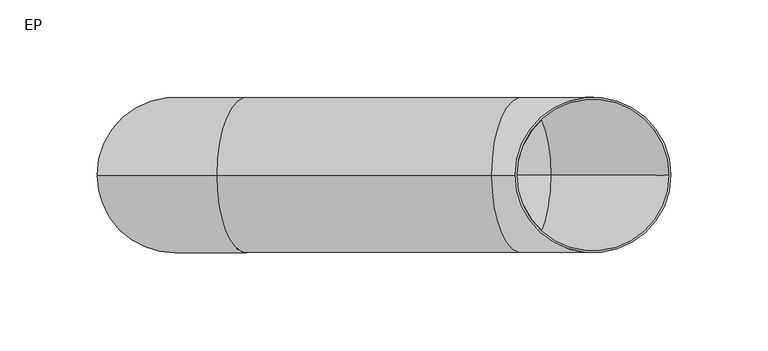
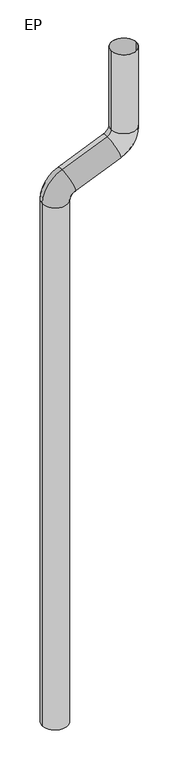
"""IFC4 building model written with IfcOpenShell, lengths in millimetres: flow terminal geometry, Descente Eau pluviale : EP."""

from ifc_helpers import new_model, si_unit, point, frame, origin, place, context, project, spatial, polyline, circle_curve, ellipse_curve, trimmed, source, transform, mapped, element, save
from ifc_brep_helpers import plane_surface, cylinder_surface, revolved_surface, advanced_brep


def ep_6def9494(model_context):
    return source(origin(), model_context, "Body", "AdvancedBrep", [
        advanced_brep(
        [(40.0, 300.0, 871000.0), (-40.0, 300.0, 871000.0), (39.0, 300.0, 871000.0), (-39.0, 300.0, 871000.0), (-40.0, 300.0, 872720.0714678), (40.0, 300.0, 872720.0714678), (-39.0, 300.0, 872720.0714678), (39.0, 300.0, 872720.0714678), (21.3861912, 300.0, 872812.3155666), (52.2772382, 300.0, 872738.5202876), (21.7723293, 300.0, 872811.3931256), (51.8911001, 300.0, 872739.4427285), (162.7227618, 300.0, 872871.4797124), (193.6138088, 300.0, 872797.6844334), (163.1088999, 300.0, 872870.5572715), (193.2276707, 300.0, 872798.6068744), (175.0, 300.0, 872889.9285322), (255.0, 300.0, 872889.9285322), (176.0, 300.0, 872889.9285322), (254.0, 300.0, 872889.9285322), (255.0, 300.0, 873150.0), (175.0, 300.0, 873150.0), (254.0, 300.0, 873150.0), (176.0, 300.0, 873150.0)],
        [
            (0, 1, circle_curve(frame((0.0, 300.0, 871000.0), z_axis=(0.0, 0.0, -1.0), x_axis=(-1.0, 0.0, 0.0)), 40.0)),
            (1, 0, circle_curve(frame((0.0, 300.0, 871000.0), z_axis=(0.0, 0.0, -1.0), x_axis=(-1.0, 0.0, 0.0)), 40.0)),
            (2, 3, circle_curve(frame((0.0, 300.0, 871000.0), z_axis=(0.0, 0.0, 1.0), x_axis=(-1.0, 0.0, 0.0)), 39.0)),
            (3, 2, circle_curve(frame((0.0, 300.0, 871000.0), z_axis=(0.0, 0.0, 1.0), x_axis=(-1.0, 0.0, 0.0)), 39.0)),
            (1, 4),
            (4, 5, circle_curve(frame((0.0, 300.0, 872720.0714678), z_axis=(0.0, 0.0, -1.0), x_axis=(-1.0, 0.0, 0.0)), 40.0)),
            (5, 0),
            (5, 4, circle_curve(frame((0.0, 300.0, 872720.0714678), z_axis=(0.0, 0.0, -1.0), x_axis=(-1.0, 0.0, 0.0)), 40.0)),
            (3, 6),
            (6, 7, circle_curve(frame((0.0, 300.0, 872720.0714678), z_axis=(0.0, 0.0, 1.0), x_axis=(-1.0, 0.0, 0.0)), 39.0)),
            (7, 2),
            (7, 6, circle_curve(frame((0.0, 300.0, 872720.0714678), z_axis=(0.0, 0.0, 1.0), x_axis=(-1.0, 0.0, 0.0)), 39.0)),
            (8, 9, circle_curve(frame((36.8317147, 300.0, 872775.4179271), z_axis=(-0.9224409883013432, 0.0, -0.3861380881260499), x_axis=(-0.3861380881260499, 0.0, 0.9224409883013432)), 40.0)),
            (9, 5, circle_curve(frame((60.0, 300.0, 872720.0714678), z_axis=(0.0, -1.0, 0.0), x_axis=(-1.0, 0.0, 0.0)), 20.0)),
            (4, 8, circle_curve(frame((60.0, 300.0, 872720.0714678), z_axis=(0.0, 1.0, 0.0), x_axis=(-1.0, 0.0, 0.0)), 100.0)),
            (9, 8, circle_curve(frame((36.8317147, 300.0, 872775.4179271), z_axis=(-0.9224409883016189, 0.0, -0.3861380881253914), x_axis=(-0.3861380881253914, 0.0, 0.9224409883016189)), 40.0)),
            (10, 11, circle_curve(frame((36.8317147, 300.0, 872775.4179271), z_axis=(0.9224409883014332, 0.0, 0.3861380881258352), x_axis=(-0.3861380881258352, 0.0, 0.9224409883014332)), 39.0)),
            (11, 7, circle_curve(frame((60.0, 300.0, 872720.0714678), z_axis=(0.0, -1.0, 0.0), x_axis=(-1.0, 0.0, 0.0)), 21.0)),
            (6, 10, circle_curve(frame((60.0, 300.0, 872720.0714678), z_axis=(0.0, 1.0, 0.0), x_axis=(-1.0, 0.0, 0.0)), 99.0)),
            (11, 10, circle_curve(frame((36.8317147, 300.0, 872775.4179271), z_axis=(0.9224409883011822, 0.0, 0.38613808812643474), x_axis=(-0.38613808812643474, 0.0, 0.9224409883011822)), 39.0)),
            (8, 12),
            (12, 13, circle_curve(frame((178.1682853, 300.0, 872834.5820729), z_axis=(-0.9224409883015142, 0.0, -0.38613808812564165), x_axis=(-0.38613808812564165, 0.0, 0.9224409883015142)), 40.0)),
            (13, 9),
            (13, 12, circle_curve(frame((178.1682853, 300.0, 872834.5820729), z_axis=(-0.9224409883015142, 0.0, -0.38613808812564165), x_axis=(-0.38613808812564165, 0.0, 0.9224409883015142)), 40.0)),
            (10, 14),
            (14, 15, circle_curve(frame((178.1682853, 300.0, 872834.5820729), z_axis=(0.9224409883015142, 0.0, 0.38613808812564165), x_axis=(-0.38613808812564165, 0.0, 0.9224409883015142)), 39.0)),
            (15, 11),
            (15, 14, circle_curve(frame((178.1682853, 300.0, 872834.5820729), z_axis=(0.9224409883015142, 0.0, 0.38613808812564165), x_axis=(-0.38613808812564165, 0.0, 0.9224409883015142)), 39.0)),
            (16, 17, circle_curve(frame((215.0, 300.0, 872889.9285322), z_axis=(-2.7853275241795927e-12, 0.0, -1.0), x_axis=(-1.0, 0.0, 2.7853275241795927e-12)), 40.0)),
            (17, 13, circle_curve(frame((155.0, 300.0, 872889.9285322), z_axis=(0.0, 1.0, 0.0), x_axis=(0.3861380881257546, 0.0, -0.9224409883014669)), 100.0)),
            (12, 16, circle_curve(frame((155.0, 300.0, 872889.9285322), z_axis=(0.0, -1.0, 0.0), x_axis=(0.3861380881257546, 0.0, -0.9224409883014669)), 20.0)),
            (17, 16, circle_curve(frame((215.0, 300.0, 872889.9285322), z_axis=(0.0, 0.0, -1.0), x_axis=(-1.0, 0.0, 0.0)), 40.0)),
            (18, 19, circle_curve(frame((215.0, 300.0, 872889.9285322), z_axis=(1.6809331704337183e-12, 0.0, 1.0), x_axis=(-1.0, 0.0, 1.6809331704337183e-12)), 39.0)),
            (19, 15, circle_curve(frame((155.0, 300.0, 872889.9285322), z_axis=(0.0, 1.0, 0.0), x_axis=(0.3861380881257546, 0.0, -0.9224409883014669)), 99.0)),
            (14, 18, circle_curve(frame((155.0, 300.0, 872889.9285322), z_axis=(0.0, -1.0, 0.0), x_axis=(0.3861380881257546, 0.0, -0.9224409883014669)), 21.0)),
            (19, 18, circle_curve(frame((215.0, 300.0, 872889.9285322), z_axis=(0.0, 0.0, 1.0), x_axis=(-1.0, 0.0, 0.0)), 39.0)),
            (20, 21, circle_curve(frame((215.0, 300.0, 873150.0), z_axis=(0.0, 0.0, 1.0), x_axis=(-1.0, 0.0, 0.0)), 40.0)),
            (21, 20, circle_curve(frame((215.0, 300.0, 873150.0), z_axis=(0.0, 0.0, 1.0), x_axis=(-1.0, 0.0, 0.0)), 40.0)),
            (22, 23, circle_curve(frame((215.0, 300.0, 873150.0), z_axis=(0.0, 0.0, -1.0), x_axis=(-1.0, 0.0, 0.0)), 39.0)),
            (23, 22, circle_curve(frame((215.0, 300.0, 873150.0), z_axis=(0.0, 0.0, -1.0), x_axis=(-1.0, 0.0, 0.0)), 39.0)),
            (16, 21),
            (20, 17),
            (18, 23),
            (22, 19),
        ],
        [
            plane_surface(frame((0.0, 300.0, 871000.0), z_axis=(0.0, 0.0, -1.0), x_axis=(0.0, 1.0, 0.0))),
            cylinder_surface(frame((0.0, 300.0, 871000.0), z_axis=(0.0, 0.0, -1.0), x_axis=(-1.0, 0.0, 0.0)), 40.0),
            revolved_surface(polyline([(-39.0, 300.0, 872720.0714678), (-39.0, 300.0, 871000.0)]), (0.0, 300.0, 871000.0), (0.0, 0.0, 1.0)),
            revolved_surface(trimmed(ellipse_curve(frame((0.0, 300.0, 872720.0714678), z_axis=(0.0, 0.0, 1.0), x_axis=(-1.0, 0.0, 0.0)), 40.0, 40.0), [point((40.0, 300.0, 872720.0714678))], [point((-40.0, 300.0, 872720.0714678))], True, "CARTESIAN"), (60.0, 300.0, 872720.0714678), (0.0, -1.0, 0.0)),
            revolved_surface(trimmed(ellipse_curve(frame((0.0, 300.0, 872720.0714678), z_axis=(0.0, 0.0, 1.0), x_axis=(-1.0, 0.0, 0.0)), 40.0, 40.0), [point((-40.0, 300.0, 872720.0714678))], [point((40.0, 300.0, 872720.0714678))], True, "CARTESIAN"), (60.0, 300.0, 872720.0714678), (0.0, -1.0, 0.0)),
            revolved_surface(trimmed(ellipse_curve(frame((0.0, 300.0, 872720.0714678), z_axis=(0.0, 0.0, -1.0), x_axis=(-1.0, 0.0, 0.0)), 39.0, 39.0), [point((39.0, 300.0, 872720.0714678))], [point((-39.0, 300.0, 872720.0714678))], True, "CARTESIAN"), (60.0, 300.0, 872720.0714678), (0.0, -1.0, 0.0)),
            revolved_surface(trimmed(ellipse_curve(frame((0.0, 300.0, 872720.0714678), z_axis=(0.0, 0.0, -1.0), x_axis=(-1.0, 0.0, 0.0)), 39.0, 39.0), [point((-39.0, 300.0, 872720.0714678))], [point((39.0, 300.0, 872720.0714678))], True, "CARTESIAN"), (60.0, 300.0, 872720.0714678), (0.0, -1.0, 0.0)),
            cylinder_surface(frame((36.8317147, 300.0, 872775.4179271), z_axis=(-0.9224409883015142, 0.0, -0.38613808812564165), x_axis=(-0.38613808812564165, 0.0, 0.9224409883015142)), 40.0),
            revolved_surface(polyline([(163.10889990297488, 300.0, 872870.5572714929), (21.772329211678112, 300.0, 872811.3931256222)]), (36.8317147, 300.0, 872775.4179271), (0.9224409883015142, 0.0, 0.38613808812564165)),
            revolved_surface(trimmed(ellipse_curve(frame((178.1682853, 300.0, 872834.5820729), z_axis=(0.9224409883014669, 0.0, 0.3861380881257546), x_axis=(-0.3861380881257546, 0.0, 0.9224409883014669)), 40.0, 40.0), [point((193.6138088, 300.0, 872797.6844334))], [point((162.7227618, 300.0, 872871.4797124))], True, "CARTESIAN"), (155.0, 300.0, 872889.9285322), (0.0, 1.0, 0.0)),
            revolved_surface(trimmed(ellipse_curve(frame((178.1682853, 300.0, 872834.5820729), z_axis=(0.9224409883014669, 0.0, 0.3861380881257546), x_axis=(-0.3861380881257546, 0.0, 0.9224409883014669)), 40.0, 40.0), [point((162.7227618, 300.0, 872871.4797124))], [point((193.6138088, 300.0, 872797.6844334))], True, "CARTESIAN"), (155.0, 300.0, 872889.9285322), (0.0, 1.0, 0.0)),
            revolved_surface(trimmed(ellipse_curve(frame((178.1682853, 300.0, 872834.5820729), z_axis=(-0.9224409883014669, 0.0, -0.3861380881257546), x_axis=(-0.3861380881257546, 0.0, 0.9224409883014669)), 39.0, 39.0), [point((193.2276707, 300.0, 872798.6068744))], [point((163.1088999, 300.0, 872870.5572715))], True, "CARTESIAN"), (155.0, 300.0, 872889.9285322), (0.0, 1.0, 0.0)),
            revolved_surface(trimmed(ellipse_curve(frame((178.1682853, 300.0, 872834.5820729), z_axis=(-0.9224409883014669, 0.0, -0.3861380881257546), x_axis=(-0.3861380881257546, 0.0, 0.9224409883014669)), 39.0, 39.0), [point((163.1088999, 300.0, 872870.5572715))], [point((193.2276707, 300.0, 872798.6068744))], True, "CARTESIAN"), (155.0, 300.0, 872889.9285322), (0.0, 1.0, 0.0)),
            plane_surface(frame((215.0, 300.0, 873150.0), z_axis=(0.0, 0.0, 1.0), x_axis=(0.0, 1.0, 0.0))),
            cylinder_surface(frame((215.0, 300.0, 872889.9285322), z_axis=(0.0, 0.0, -1.0), x_axis=(-1.0, 0.0, 0.0)), 40.0),
            revolved_surface(polyline([(176.0, 300.0, 873150.0), (176.0, 300.0, 872889.9285321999)]), (215.0, 300.0, 872889.9285322), (0.0, 0.0, 1.0)),
            revolved_surface(polyline([(176.0, 300.0, 873150.0), (176.0, 300.0, 872889.9285322)]), (215.0, 300.0, 872889.9285322), (0.0, 0.0, 1.0)),
        ],
        [
            (0, [[1, 2], [3, 4]]),
            (1, [[5, 6, 7, -2]]),
            (1, [[-7, 8, -5, -1]]),
            (2, [[9, 10, 11, -4]]),
            (2, [[-11, 12, -9, -3]]),
            (3, [[13, 14, -6, 15]]),
            (4, [[16, -15, -8, -14]]),
            (5, [[17, 18, -10, 19]]),
            (6, [[20, -19, -12, -18]]),
            (7, [[21, 22, 23, -13]]),
            (7, [[-23, 24, -21, -16]]),
            (8, [[25, 26, 27, -17]]),
            (8, [[-27, 28, -25, -20]]),
            (9, [[29, 30, -22, 31]]),
            (10, [[32, -31, -24, -30]]),
            (11, [[33, 34, -26, 35]]),
            (12, [[36, -35, -28, -34]]),
            (13, [[37, 38], [39, 40]]),
            (14, [[41, -37, 42, -29]]),
            (14, [[-42, -38, -41, -32]]),
            (15, [[43, -39, 44, -33]]),
            (16, [[-44, -40, -43, -36]]),
        ],
    ),
    ])


if __name__ == "__main__":
    model = new_model("IFC4")
    model_context = context("Model", 3, world=origin())
    ifc_project = project(units=[si_unit("LENGTHUNIT", "METRE", prefix="MILLI")], contexts=[model_context])
    site = spatial("IfcSite", under=ifc_project)
    building = spatial("IfcBuilding", under=site)
    placement = place(None, origin())
    ep_shape = ep_6def9494(model_context)
    element("IfcFlowTerminal", 1, ObjectType="Descente Eau pluviale : EP", at=placement, inside=building, context=model_context, shape_type="MappedRepresentation", body=[
        mapped(ep_shape, transform((0.0, 0.0, 0.0), x_axis=(1.0, 0.0, 0.0), y_axis=(0.0, 1.0, 0.0), z_axis=(0.0, 0.0, 1.0))),
    ])
    save(model, "model.ifc")
